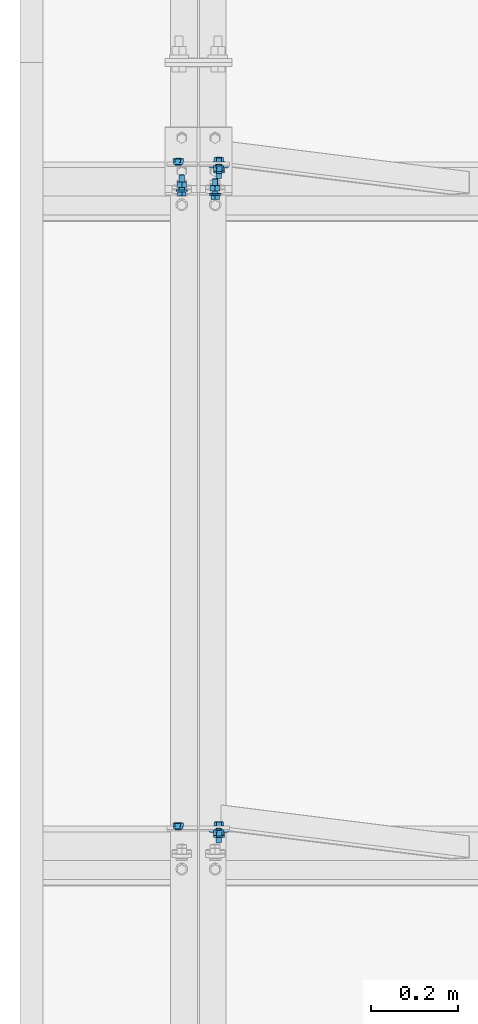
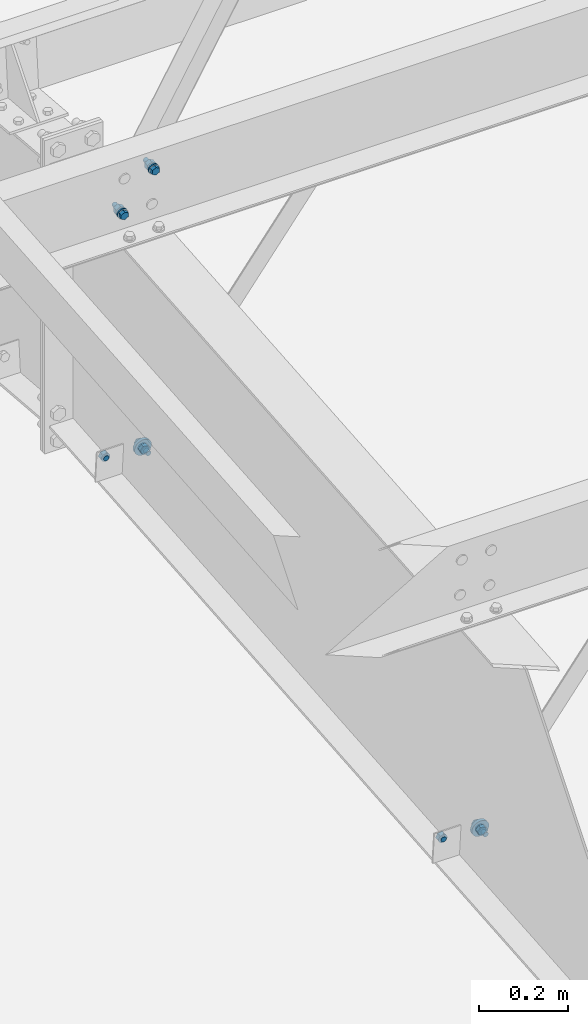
# One storey, part 130 of 185: 8 mechanical fasteners, 4 elements without a shape of their own.
"""IFC2X3 building model written with IfcOpenShell, lengths in millimetres."""

from ifc_helpers import new_model, si_unit, frame, origin_with_axes, origin_2d_with_axis, place, context, subcontext, project, spatial, polyline, circle, outline, extrude, source, transform, mapped, material, type_object, element, aggregate, save


model = new_model("IFC2X3")

# Units and contexts
model_context = context("Model", 3, precision=1e-05, world=origin_with_axes())
body_context = subcontext(model_context, "Body", "Model", "MODEL_VIEW")
ifc_project = project(units=[si_unit("LENGTHUNIT", "METRE", prefix="MILLI"), si_unit("AREAUNIT", "SQUARE_METRE"), si_unit("VOLUMEUNIT", "CUBIC_METRE"), si_unit("MASSUNIT", "GRAM", prefix="KILO"), si_unit("TIMEUNIT", "SECOND"), si_unit("PLANEANGLEUNIT", "RADIAN"), si_unit("SOLIDANGLEUNIT", "STERADIAN"), si_unit("THERMODYNAMICTEMPERATUREUNIT", "DEGREE_CELSIUS"), si_unit("LUMINOUSINTENSITYUNIT", "LUMEN")], contexts=[model_context])

# Site, building, storey
site_placement = place(None, origin_with_axes())
site = spatial("IfcSite", under=ifc_project, at=site_placement, Name="Undefined", CompositionType="ELEMENT")
building_placement = place(site_placement, origin_with_axes())
building = spatial("IfcBuilding", under=site, at=building_placement, Name="Undefined", CompositionType="ELEMENT")
storey_placement = place(building_placement, origin_with_axes())
storey = spatial("IfcBuildingStorey", under=building, at=storey_placement, Name="Undefined", CompositionType="ELEMENT", Elevation=0.0)

# Assembly, mechanical fastener
assembly_1_placement = place(storey_placement, origin_with_axes())
assembly_1 = element("IfcElementAssembly", 1, at=assembly_1_placement, inside=storey, Name="Steel Assembly", AssemblyPlace="NOTDEFINED", PredefinedType="RIGID_FRAME")
ifc_material_1 = material(Name="Undefined")
discrete_accessory_type = type_object("IfcDiscreteAccessoryType", Name="Bolt assembly")
shared_shape_1 = source(origin_with_axes(), body_context, "Body", "SweptSolid", [
    extrude(circle(Radius=7.14374971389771, at=origin_2d_with_axis()), frame((0.0, -1.59000001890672, 0.0), z_axis=(0.0, 1.0, 0.0), x_axis=(1.0, 0.0, 0.0)), (0.0, 0.0, 1.0), 1.7),
    extrude(outline(polyline([(10.9985221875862, 0.0), (5.4992610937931, 9.52499961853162), (-5.4992610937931, 9.52499961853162), (-10.9985221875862, 0.0), (-5.4992610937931, -9.52499961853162), (5.4992610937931, -9.52499961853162), (10.9985221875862, 0.0)])), frame((0.0, -15.0837496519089, 0.0), z_axis=(0.0, 1.0, 0.0), x_axis=(1.0, 0.0, 0.0)), (0.0, 0.0, 1.0), 9.5),
    extrude(circle(Radius=6.34999990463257, at=origin_2d_with_axis()), frame((0.0, -5.5587500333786, 0.0), z_axis=(0.0, 1.0, 0.0), x_axis=(1.0, 0.0, 0.0)), (0.0, 0.0, 1.0), 38.1),
    extrude(circle(Radius=13.4937496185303, at=origin_2d_with_axis()), frame((0.0, -5.5587500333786, 0.0), z_axis=(0.0, 1.0, 0.0), x_axis=(1.0, 0.0, 0.0)), (0.0, 0.0, 1.0), 4.0),
    extrude(circle(Radius=22.2250003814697, at=origin_2d_with_axis()), frame((0.0, 0.0, 0.0), z_axis=(0.0, 1.0, 0.0), x_axis=(1.0, 0.0, 0.0)), (0.0, 0.0, 1.0), 7.9),
    extrude(outline(polyline([(12.8316099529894, 0.0), (6.4158049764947, 11.1125001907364), (-6.4158049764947, 11.1125001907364), (-12.8316099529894, 0.0), (-6.4158049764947, -11.1125001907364), (6.4158049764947, -11.1125001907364), (12.8316099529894, 0.0)])), frame((0.0, 7.93750000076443, 0.0), z_axis=(0.0, 1.0, 0.0), x_axis=(1.0, 0.0, 0.0)), (0.0, 0.0, 1.0), 12.3),
])
mechanical_fastener_1_placement = place(assembly_1_placement, frame((453.11163309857, 15769.6385191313, 6547.56487314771), z_axis=(0.832860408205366, 0.0459642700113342, -0.551571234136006), x_axis=(0.553483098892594, -0.0691652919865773, 0.829983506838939)))
mechanical_fastener_1 = element("IfcMechanicalFastener", 2, at=mechanical_fastener_1_placement, type_object=discrete_accessory_type, material=ifc_material_1, Name="Bolt assembly", NominalDiameter=12.6999998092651, NominalLength=38.0999984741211, context=body_context, shape_type="MappedRepresentation", body=[
    mapped(shared_shape_1, transform((0.0, 0.0, 0.0))),
])
aggregate(assembly_1, [mechanical_fastener_1])

assembly_2_placement = place(storey_placement, origin_with_axes())
assembly_2 = element("IfcElementAssembly", 3, at=assembly_2_placement, inside=storey, Name="Steel Assembly", AssemblyPlace="NOTDEFINED", PredefinedType="RIGID_FRAME")
mechanical_fastener_2_placement = place(assembly_2_placement, frame((453.111633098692, 14250.9027835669, 6421.00356185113), z_axis=(0.832860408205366, 0.0459642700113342, -0.551571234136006), x_axis=(0.553483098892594, -0.0691652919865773, 0.829983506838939)))
mechanical_fastener_2 = element("IfcMechanicalFastener", 4, at=mechanical_fastener_2_placement, type_object=discrete_accessory_type, material=ifc_material_1, Name="Bolt assembly", NominalDiameter=12.6999998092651, NominalLength=38.0999984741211, context=body_context, shape_type="MappedRepresentation", body=[
    mapped(shared_shape_1, transform((0.0, 0.0, 0.0))),
])
aggregate(assembly_2, [mechanical_fastener_2])

# Assembly, mechanical fasteners
assembly_3_placement = place(storey_placement, origin_with_axes())
assembly_3 = element("IfcElementAssembly", 5, at=assembly_3_placement, inside=storey, Name="Steel Assembly", AssemblyPlace="NOTDEFINED", PredefinedType="RIGID_FRAME")
ifc_material_2 = material(Name="7990")
shared_shape_2 = source(origin_with_axes(), body_context, "Body", "SweptSolid", [
    extrude(circle(Radius=7.14374971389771, at=origin_2d_with_axis()), frame((0.0, -3.41600000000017, 0.0), z_axis=(0.0, 1.0, 0.0), x_axis=(1.0, 0.0, 0.0)), (0.0, 0.0, 1.0), 3.5),
    extrude(circle(Radius=11.4299998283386, at=origin_2d_with_axis()), frame((0.0, 0.0, 0.0), z_axis=(0.0, 1.0, 0.0), x_axis=(1.0, 0.0, 0.0)), (0.0, 0.0, 1.0), 4.2),
    extrude(outline(polyline([(12.171698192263, 0.0), (6.08584909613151, 10.5409998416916), (-6.08584909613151, 10.5409998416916), (-12.171698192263, 0.0), (-6.08584909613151, -10.5409998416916), (6.08584909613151, -10.5409998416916), (12.171698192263, 0.0)])), frame((0.0, 4.1909999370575, 0.0), z_axis=(0.0, 1.0, 0.0), x_axis=(1.0, 0.0, 0.0)), (0.0, 0.0, 1.0), 8.4),
])
mechanical_fastener_3_placement = place(assembly_3_placement, frame((360.241850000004, 15769.7076844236, 6546.73488964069), z_axis=(0.921635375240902, 0.0322263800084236, -0.386716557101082), x_axis=(-0.388056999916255, 0.0765376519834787, -0.9184518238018)))
mechanical_fastener_3 = element("IfcMechanicalFastener", 6, at=mechanical_fastener_3_placement, type_object=discrete_accessory_type, material=ifc_material_2, Name="Bolt assembly", NominalDiameter=12.6999998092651, NominalLength=38.0999984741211, context=body_context, shape_type="MappedRepresentation", body=[
    mapped(shared_shape_2, transform((0.0, 0.0, 0.0))),
])
mechanical_fastener_4_placement = place(assembly_3_placement, frame((360.241850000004, 14250.9719488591, 6420.17357834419), z_axis=(0.921635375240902, 0.0322263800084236, -0.386716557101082), x_axis=(-0.388056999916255, 0.0765376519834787, -0.9184518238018)))
mechanical_fastener_4 = element("IfcMechanicalFastener", 7, at=mechanical_fastener_4_placement, type_object=discrete_accessory_type, material=ifc_material_2, Name="Bolt assembly", NominalDiameter=12.6999998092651, NominalLength=38.0999984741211, context=body_context, shape_type="MappedRepresentation", body=[
    mapped(shared_shape_2, transform((0.0, 0.0, 0.0))),
])
shared_shape_3 = source(origin_with_axes(), body_context, "Body", "SweptSolid", [
    extrude(circle(Radius=7.14374971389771, at=origin_2d_with_axis()), frame((0.0, 0.0, 0.0), z_axis=(0.0, 1.0, 0.0), x_axis=(1.0, 0.0, 0.0)), (0.0, 0.0, 1.0), 3.5),
    extrude(circle(Radius=11.4299998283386, at=origin_2d_with_axis()), frame((0.0, 3.41600000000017, 0.0), z_axis=(0.0, 1.0, 0.0), x_axis=(1.0, 0.0, 0.0)), (0.0, 0.0, 1.0), 4.2),
    extrude(outline(polyline([(12.171698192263, 0.0), (6.08584909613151, 10.5409998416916), (-6.08584909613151, 10.5409998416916), (-12.171698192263, 0.0), (-6.08584909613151, -10.5409998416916), (6.08584909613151, -10.5409998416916), (12.171698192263, 0.0)])), frame((0.0, 7.60699993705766, 0.0), z_axis=(0.0, 1.0, 0.0), x_axis=(1.0, 0.0, 0.0)), (0.0, 0.0, 1.0), 8.4),
])
mechanical_fastener_5_placement = place(assembly_3_placement, frame((452.558150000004, 15769.7076844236, 6546.73488964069), z_axis=(-0.921635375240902, 0.0322263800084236, -0.386716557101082), x_axis=(0.388056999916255, 0.0765376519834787, -0.9184518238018)))
mechanical_fastener_5 = element("IfcMechanicalFastener", 8, at=mechanical_fastener_5_placement, type_object=discrete_accessory_type, material=ifc_material_2, Name="Bolt assembly", NominalDiameter=12.6999998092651, NominalLength=38.0999984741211, context=body_context, shape_type="MappedRepresentation", body=[
    mapped(shared_shape_3, transform((0.0, 0.0, 0.0))),
])
mechanical_fastener_6_placement = place(assembly_3_placement, frame((452.558150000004, 14250.9719488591, 6420.17357834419), z_axis=(-0.921635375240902, 0.0322263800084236, -0.386716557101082), x_axis=(0.388056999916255, 0.0765376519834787, -0.9184518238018)))
mechanical_fastener_6 = element("IfcMechanicalFastener", 9, at=mechanical_fastener_6_placement, type_object=discrete_accessory_type, material=ifc_material_2, Name="Bolt assembly", NominalDiameter=12.6999998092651, NominalLength=38.0999984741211, context=body_context, shape_type="MappedRepresentation", body=[
    mapped(shared_shape_3, transform((0.0, 0.0, 0.0))),
])
aggregate(assembly_3, [mechanical_fastener_5, mechanical_fastener_3, mechanical_fastener_6, mechanical_fastener_4])

assembly_4_placement = place(storey_placement, origin_with_axes())
assembly_4 = element("IfcElementAssembly", 10, at=assembly_4_placement, inside=storey, Name="Steel Assembly", AssemblyPlace="NOTDEFINED", PredefinedType="RIGID_FRAME")
shared_shape_4 = source(origin_with_axes(), body_context, "Body", "SweptSolid", [
    extrude(circle(Radius=7.14374971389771, at=origin_2d_with_axis()), frame((0.0, 0.0, 0.0), z_axis=(0.0, 1.0, 0.0), x_axis=(1.0, 0.0, 0.0)), (0.0, 0.0, 1.0), 6.5),
    extrude(outline(polyline([(10.9985221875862, 0.0), (5.4992610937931, 9.52499961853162), (-5.4992610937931, 9.52499961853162), (-10.9985221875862, 0.0), (-5.4992610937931, -9.52499961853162), (5.4992610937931, -9.52499961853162), (10.9985221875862, 0.0)])), frame((0.0, -13.4937496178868, 0.0), z_axis=(0.0, 1.0, 0.0), x_axis=(1.0, 0.0, 0.0)), (0.0, 0.0, 1.0), 9.5),
    extrude(circle(Radius=6.34999990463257, at=origin_2d_with_axis()), frame((0.0, -3.96874999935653, 0.0), z_axis=(0.0, 1.0, 0.0), x_axis=(1.0, 0.0, 0.0)), (0.0, 0.0, 1.0), 38.1),
    extrude(circle(Radius=13.4937496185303, at=origin_2d_with_axis()), frame((0.0, -3.96874999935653, 0.0), z_axis=(0.0, 1.0, 0.0), x_axis=(1.0, 0.0, 0.0)), (0.0, 0.0, 1.0), 4.0),
    extrude(outline(polyline([(12.8316099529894, 0.0), (6.4158049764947, 11.1125001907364), (-6.4158049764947, 11.1125001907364), (-12.8316099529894, 0.0), (-6.4158049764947, -11.1125001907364), (6.4158049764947, -11.1125001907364), (12.8316099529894, 0.0)])), frame((0.0, 6.35000000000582, 0.0), z_axis=(0.0, 1.0, 0.0), x_axis=(1.0, 0.0, 0.0)), (0.0, 0.0, 1.0), 12.3),
])
mechanical_fastener_7_placement = place(assembly_4_placement, frame((368.300000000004, 15710.9094083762, 7252.31420221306), z_axis=(1.0, 0.0, 0.0), x_axis=(0.0, 0.0830454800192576, -0.996545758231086)))
mechanical_fastener_7 = element("IfcMechanicalFastener", 11, at=mechanical_fastener_7_placement, type_object=discrete_accessory_type, material=ifc_material_1, Name="Bolt assembly", NominalDiameter=12.6999998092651, NominalLength=38.0999984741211, context=body_context, shape_type="MappedRepresentation", body=[
    mapped(shared_shape_4, transform((0.0, 0.0, 0.0))),
])
shared_shape_5 = source(origin_with_axes(), body_context, "Body", "SweptSolid", [
    extrude(circle(Radius=7.14374971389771, at=origin_2d_with_axis()), frame((0.0, 0.0, 0.0), z_axis=(0.0, 1.0, 0.0), x_axis=(1.0, 0.0, 0.0)), (0.0, 0.0, 1.0), 6.4),
    extrude(outline(polyline([(10.9985221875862, 0.0), (5.4992610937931, 9.52499961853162), (-5.4992610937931, 9.52499961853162), (-10.9985221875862, 0.0), (-5.4992610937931, -9.52499961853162), (5.4992610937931, -9.52499961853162), (10.9985221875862, 0.0)])), frame((0.0, -13.4937496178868, 0.0), z_axis=(0.0, 1.0, 0.0), x_axis=(1.0, 0.0, 0.0)), (0.0, 0.0, 1.0), 9.5),
    extrude(circle(Radius=6.34999990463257, at=origin_2d_with_axis()), frame((0.0, -3.96874999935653, 0.0), z_axis=(0.0, 1.0, 0.0), x_axis=(1.0, 0.0, 0.0)), (0.0, 0.0, 1.0), 38.1),
    extrude(circle(Radius=13.4937496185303, at=origin_2d_with_axis()), frame((0.0, -3.96874999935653, 0.0), z_axis=(0.0, 1.0, 0.0), x_axis=(1.0, 0.0, 0.0)), (0.0, 0.0, 1.0), 4.0),
    extrude(outline(polyline([(12.8316099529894, 0.0), (6.4158049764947, 11.1125001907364), (-6.4158049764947, 11.1125001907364), (-12.8316099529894, 0.0), (-6.4158049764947, -11.1125001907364), (6.4158049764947, -11.1125001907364), (12.8316099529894, 0.0)])), frame((0.0, 6.35000000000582, 0.0), z_axis=(0.0, 1.0, 0.0), x_axis=(1.0, 0.0, 0.0)), (0.0, 0.0, 1.0), 12.3),
])
mechanical_fastener_8_placement = place(assembly_4_placement, frame((444.500000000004, 15702.4719876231, 7353.56325125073), z_axis=(1.0, 0.0, 0.0), x_axis=(0.0, 0.0830454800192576, -0.996545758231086)))
mechanical_fastener_8 = element("IfcMechanicalFastener", 12, at=mechanical_fastener_8_placement, type_object=discrete_accessory_type, material=ifc_material_1, Name="Bolt assembly", NominalDiameter=12.6999998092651, NominalLength=38.0999984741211, context=body_context, shape_type="MappedRepresentation", body=[
    mapped(shared_shape_5, transform((0.0, 0.0, 0.0))),
])
aggregate(assembly_4, [mechanical_fastener_7, mechanical_fastener_8])

save(model, "model.ifc")
